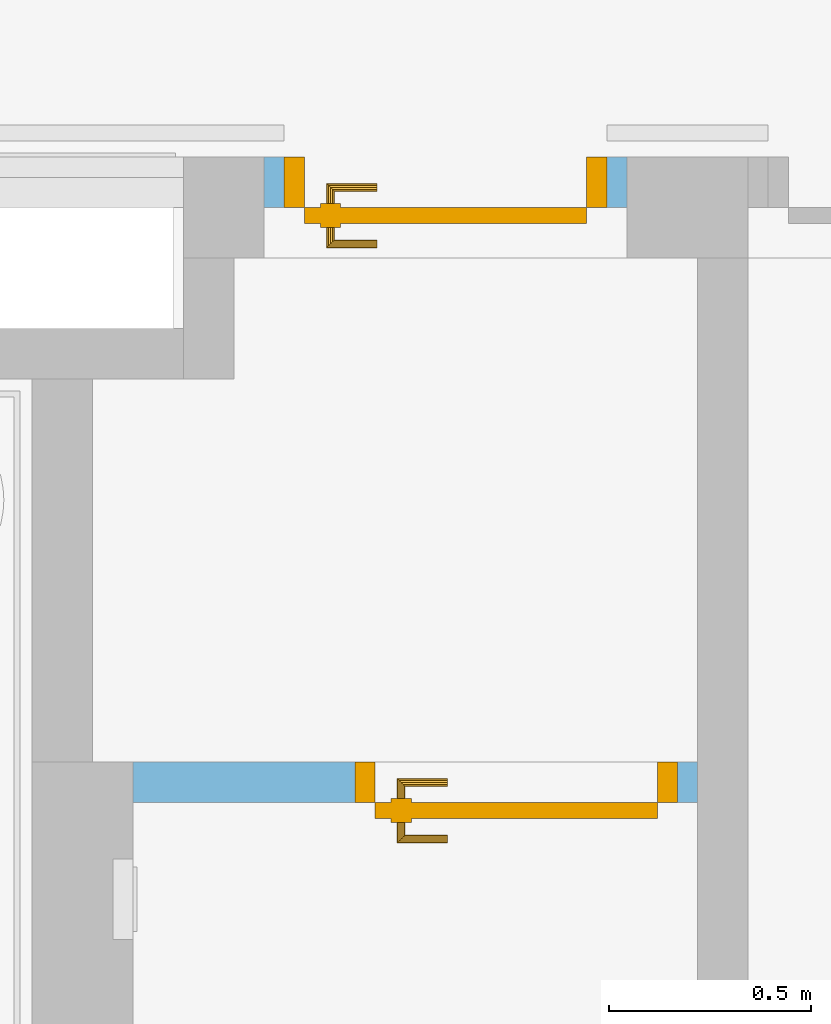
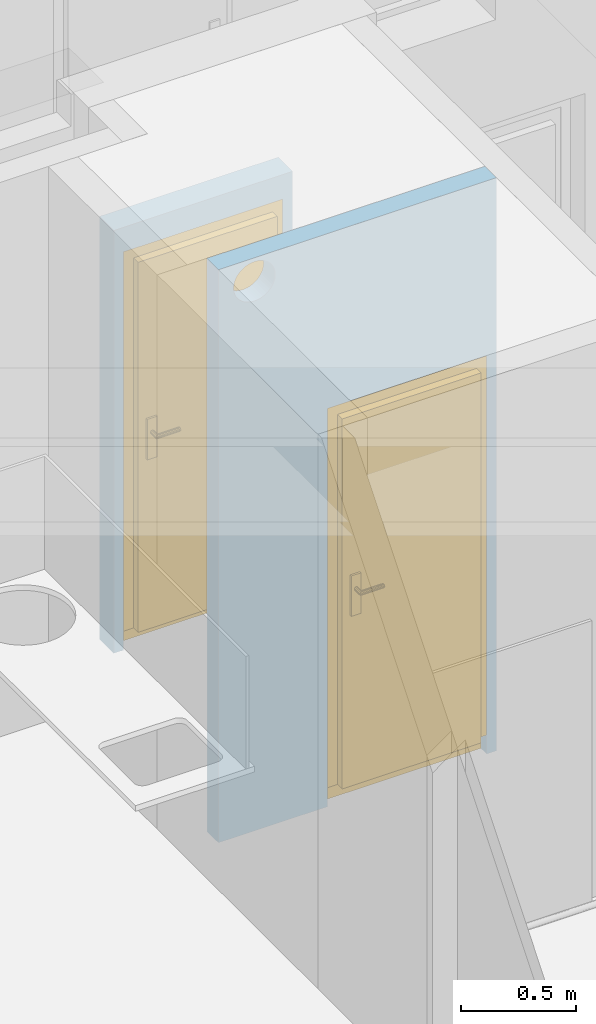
# One storey, part 56 of 84: 2 doors, 4 openings, plus 2 elements that do not belong to this part.
"""IFC4 building model written with IfcOpenShell, lengths in metres."""

from ifc_helpers import new_model, entity, si_unit, converted_unit, derived_unit, frame, frame_2d, origin, origin_with_axes, place, context, subcontext, project, spatial, polyline, rectangle, outline, extrude, closed_shell, open_shell, surface_model, source, transform, mapped, material, layer, layer_set, layer_usage, type_object, element, fill, save


model = new_model("IFC4")

# Units and contexts
model_context = context("Model", 3, precision=1e-05, world=origin())
body_context = subcontext(model_context, "Body", "Model", "MODEL_VIEW")
ifc_project = project(units=[si_unit("LENGTHUNIT", "METRE"), si_unit("AREAUNIT", "SQUARE_METRE"), si_unit("VOLUMEUNIT", "CUBIC_METRE"), si_unit("MASSUNIT", "GRAM", prefix="KILO"), converted_unit("PLANEANGLEUNIT", "DEGREE", entity("IfcPlaneAngleMeasure", 0.0174532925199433), si_unit("PLANEANGLEUNIT", "RADIAN"), dimensions=[0, 0, 0, 0, 0, 0, 0]), derived_unit("THERMALTRANSMITTANCEUNIT", [(si_unit("POWERUNIT", "WATT"), 1), (si_unit("THERMODYNAMICTEMPERATUREUNIT", "KELVIN"), -1), (si_unit("LENGTHUNIT", "METRE"), -2)]), derived_unit("VOLUMETRICFLOWRATEUNIT", [(si_unit("LENGTHUNIT", "METRE"), 3), (converted_unit("TIMEUNIT", "hour", entity("IfcTimeMeasure", 3600.0), si_unit("TIMEUNIT", "SECOND"), dimensions=[0, 0, 1, 0, 0, 0, 0]), -1), (si_unit("LENGTHUNIT", "METRE"), -1)])], contexts=[model_context])

# Site, building, storey
site_placement = place(None, origin())
site = spatial("IfcSite", under=ifc_project, at=site_placement, Name="3. ASŘ", CompositionType="ELEMENT")
building_placement = place(site_placement, origin())
building = spatial("IfcBuilding", under=site, at=building_placement, Name="Pavilon C", CompositionType="ELEMENT")
storey_placement = place(building_placement, frame((0.0, 0.0, -3.3)))
storey = spatial("IfcBuildingStorey", under=building, at=storey_placement, Name="Půdorys 1.PP", CompositionType="ELEMENT", Elevation=-3.3)

# Wall, openings, door
ifc_material_1 = material(Name="YTONG 125")
ifc_layer_1 = layer(ifc_material_1, 0.125)
ifc_layer_set_1 = layer_set([ifc_layer_1])
ifc_layer_usage_1 = layer_usage(ifc_layer_set_1, "AXIS2", "POSITIVE", 0.0)
wall_1_placement = place(storey_placement, frame((22.475, 7.525, -0.1), z_axis=(0.0, 0.0, 1.0), x_axis=(-1.0, 0.0, 0.0)))
wall_1 = element("IfcWall", 1, at=wall_1_placement, inside=storey, material=ifc_layer_usage_1, Name="YTONG 125", context=body_context, shape_type="SweptSolid", body=[
    extrude(rectangle(XDim=0.9, YDim=0.125, at=frame_2d((0.45, 0.0625), x_axis=(1.0, 0.0))), origin_with_axes(), (0.0, 0.0, 1.0), 2.25),
])
opening_1_placement = place(wall_1_placement, frame((0.85, 0.125, 0.0), z_axis=(0.0, -1.0, 0.0), x_axis=(0.0, 0.0, 1.0)))
opening_1 = element("IfcOpeningElement", 2, at=opening_1_placement, cuts=wall_1, Name="Dveřní otvor", ObjectType="Opening", context=body_context, shape_type="SweptSolid", body=[
    extrude(outline(polyline([(0.0, 0.8), (2.12, 0.8), (2.12, 0.0), (0.0, 0.0), (0.0, 0.8)])), origin_with_axes(), (0.0, 0.0, 1.0), 0.125),
])
opening_2_placement = place(wall_1_placement, frame((0.586062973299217, 0.0, 2.8), z_axis=(0.0, 1.0, 0.0), x_axis=(0.0, 0.0, 1.0)))
element("IfcOpeningElement", 3, at=opening_2_placement, cuts=wall_1, Name="VZT", ObjectType="Opening", context=body_context, shape_type="SweptSolid", body=[
    extrude(outline(polyline([(0.124999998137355, 0.25), (0.138066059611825, 0.249315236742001), (0.150988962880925, 0.247268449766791), (0.163627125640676, 0.243882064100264), (0.175842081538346, 0.239193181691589), (0.187500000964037, 0.233253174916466), (0.198473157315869, 0.226127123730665), (0.208641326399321, 0.21789310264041), (0.217893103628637, 0.208641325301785), (0.226127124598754, 0.198473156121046), (0.233253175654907, 0.18749999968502), (0.239193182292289, 0.175842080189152), (0.243882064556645, 0.163627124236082), (0.24726845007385, 0.15098896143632), (0.249315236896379, 0.138066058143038), (0.25, 0.125000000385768), (0.249315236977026, 0.11193394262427), (0.247268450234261, 0.0990110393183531), (0.243882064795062, 0.0863728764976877), (0.2391931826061, 0.0741579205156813), (0.233253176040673, 0.0625000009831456), (0.22612712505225, 0.0515268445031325), (0.217893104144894, 0.0413586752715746), (0.208641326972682, 0.0321068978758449), (0.198473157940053, 0.0238728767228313), (0.187500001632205, 0.0167468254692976), (0.175842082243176, 0.0108068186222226), (0.163627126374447, 0.00611793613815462), (0.150988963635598, 0.00273155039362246), (0.138066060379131, 0.000684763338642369), (0.124999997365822, 0.0), (0.111933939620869, 0.000684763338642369), (0.0990110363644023, 0.00273155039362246), (0.0863728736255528, 0.00611793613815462), (0.074157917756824, 0.0108068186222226), (0.0624999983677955, 0.0167468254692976), (0.0515268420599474, 0.0238728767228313), (0.0413586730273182, 0.0321068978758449), (0.0321068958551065, 0.0413586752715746), (0.0238728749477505, 0.0515268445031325), (0.0167468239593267, 0.0625000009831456), (0.0108068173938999, 0.0741579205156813), (0.00611793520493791, 0.0863728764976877), (0.00273154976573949, 0.0990110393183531), (0.000684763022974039, 0.11193394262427), (0.0, 0.125000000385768), (0.000684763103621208, 0.138066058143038), (0.00273154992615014, 0.15098896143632), (0.00611793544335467, 0.163627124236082), (0.0108068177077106, 0.175842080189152), (0.0167468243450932, 0.18749999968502), (0.0238728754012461, 0.198473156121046), (0.0321068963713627, 0.208641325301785), (0.0413586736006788, 0.21789310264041), (0.0515268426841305, 0.226127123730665), (0.0624999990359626, 0.233253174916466), (0.0741579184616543, 0.239193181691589), (0.086372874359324, 0.243882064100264), (0.0990110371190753, 0.247268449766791), (0.111933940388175, 0.249315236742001), (0.124999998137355, 0.25)])), origin_with_axes(), (0.0, 0.0, 1.0), 0.125),
])
door_type_1 = type_object("IfcDoorType", Name="I.D018", OperationType="NOTDEFINED", ParameterTakesPrecedence=False, PredefinedType="DOOR")
shared_shape_1 = source(origin_with_axes(), body_context, "Body", "SurfaceModel", [
    surface_model("IfcShellBasedSurfaceModel", [(0.0, 0.0625, 0.0), (0.8, 0.0625, 0.0), (0.8, 0.0625, 0.1), (0.0, 0.0625, 0.1)], [open_shell([[[0, 1, 2, 3]]], orient=[[False]])]),
    surface_model("IfcShellBasedSurfaceModel", [(0.0, 0.125, 2.12), (0.0, 0.125, 0.101), (0.05, 0.125, 0.101), (0.05, 0.125, 2.12), (0.0, 0.0, 0.101), (0.0, 2.41584530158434e-16, 2.12), (0.05, 2.41584530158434e-16, 2.12), (0.05, 0.0, 0.101)], [closed_shell([[[0, 1, 2, 3]], [[4, 5, 6, 7]], [[1, 0, 5, 4]], [[2, 1, 4, 7]], [[3, 2, 7, 6]], [[0, 3, 6, 5]]], orient=[[False], [False], [False], [False], [False], [False]])]),
    surface_model("IfcShellBasedSurfaceModel", [(0.75, 0.125, 2.12), (0.75, 0.125, 0.101), (0.8, 0.125, 0.101), (0.8, 0.125, 2.12), (0.75, 0.0, 0.101), (0.75, 2.41584530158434e-16, 2.12), (0.8, 2.41584530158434e-16, 2.12), (0.8, 0.0, 0.101)], [closed_shell([[[0, 1, 2, 3]], [[4, 5, 6, 7]], [[1, 0, 5, 4]], [[2, 1, 4, 7]], [[3, 2, 7, 6]], [[0, 3, 6, 5]]], orient=[[False], [False], [False], [False], [False], [False]])]),
    surface_model("IfcShellBasedSurfaceModel", [(0.05, 0.125, 2.12), (0.05, 0.125, 2.07), (0.75, 0.125, 2.07), (0.75, 0.125, 2.12), (0.05, 2.41584530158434e-16, 2.07), (0.05, 2.41584530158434e-16, 2.12), (0.75, 2.41584530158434e-16, 2.12), (0.75, 2.41584530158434e-16, 2.07)], [closed_shell([[[0, 1, 2, 3]], [[4, 5, 6, 7]], [[1, 0, 5, 4]], [[2, 1, 4, 7]], [[3, 2, 7, 6]], [[0, 3, 6, 5]]], orient=[[False], [False], [False], [False], [False], [False]])]),
    surface_model("IfcShellBasedSurfaceModel", [(0.05, 0.165, 2.07), (0.05, 0.165, 0.101), (0.75, 0.165, 0.101), (0.75, 0.165, 2.07), (0.05, 0.125, 0.101), (0.05, 0.125, 2.07), (0.75, 0.125, 2.07), (0.75, 0.125, 0.101)], [closed_shell([[[0, 1, 2, 3]], [[4, 5, 6, 7]], [[1, 0, 5, 4]], [[2, 1, 4, 7]], [[3, 2, 7, 6]], [[0, 3, 6, 5]]], orient=[[False], [False], [False], [False], [False], [False]])]),
    surface_model("IfcShellBasedSurfaceModel", [(0.09, 0.125, 1.226), (0.09, 0.125, 1.011), (0.14, 0.125, 1.011), (0.14, 0.125, 1.226), (0.09, 0.115, 1.011), (0.09, 0.115, 1.226), (0.14, 0.115, 1.226), (0.14, 0.115, 1.011)], [closed_shell([[[0, 1, 2, 3]], [[4, 5, 6, 7]], [[1, 0, 5, 4]], [[2, 1, 4, 7]], [[3, 2, 7, 6]], [[0, 3, 6, 5]]], orient=[[False], [False], [False], [False], [False], [False]])]),
    surface_model("IfcShellBasedSurfaceModel", [(0.115, 0.115, 1.161), (0.11, 0.115, 1.15966025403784), (0.106339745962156, 0.115, 1.156), (0.105, 0.115, 1.151), (0.106339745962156, 0.115, 1.146), (0.11, 0.115, 1.14233974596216), (0.115, 0.115, 1.141), (0.12, 0.115, 1.14233974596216), (0.123660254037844, 0.115, 1.146), (0.125, 0.115, 1.151), (0.123660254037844, 0.115, 1.156), (0.12, 0.115, 1.15966025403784), (0.115, 0.0750000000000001, 1.161), (0.11, 0.0700000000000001, 1.15966025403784), (0.106339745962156, 0.0663397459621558, 1.156), (0.105, 0.0650000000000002, 1.151), (0.106339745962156, 0.0663397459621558, 1.146), (0.11, 0.0700000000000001, 1.14233974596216), (0.115, 0.0750000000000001, 1.141), (0.12, 0.0800000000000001, 1.14233974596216), (0.123660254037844, 0.0836602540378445, 1.146), (0.125, 0.0850000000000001, 1.151), (0.123660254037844, 0.0836602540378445, 1.156), (0.12, 0.0800000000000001, 1.15966025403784), (0.23, 0.0750000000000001, 1.161), (0.23, 0.0700000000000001, 1.15966025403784), (0.23, 0.0663397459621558, 1.156), (0.23, 0.0650000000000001, 1.151), (0.23, 0.0663397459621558, 1.146), (0.23, 0.0700000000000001, 1.14233974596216), (0.23, 0.0750000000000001, 1.141), (0.23, 0.0800000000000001, 1.14233974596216), (0.23, 0.0836602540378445, 1.146), (0.23, 0.0850000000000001, 1.151), (0.23, 0.0836602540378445, 1.156), (0.23, 0.0800000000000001, 1.15966025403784)], [open_shell([[[0, 1, 2, 3, 4, 5, 6, 7, 8, 9, 10, 11]], [[0, 12, 13, 1]], [[1, 13, 14, 2]], [[2, 14, 15, 3]], [[3, 15, 16, 4]], [[4, 16, 17, 5]], [[5, 17, 18, 6]], [[6, 18, 19, 7]], [[7, 19, 20, 8]], [[8, 20, 21, 9]], [[9, 21, 22, 10]], [[10, 22, 23, 11]], [[11, 23, 12, 0]], [[12, 24, 25, 13]], [[13, 25, 26, 14]], [[14, 26, 27, 15]], [[15, 27, 28, 16]], [[16, 28, 29, 17]], [[17, 29, 30, 18]], [[18, 30, 31, 19]], [[19, 31, 32, 20]], [[20, 32, 33, 21]], [[21, 33, 34, 22]], [[22, 34, 35, 23]], [[23, 35, 24, 12]]], orient=[[False], [False], [False], [False], [False], [False], [False], [False], [False], [False], [False], [False], [False], [False], [False], [False], [False], [False], [False], [False], [False], [False], [False], [False], [False]])]),
    surface_model("IfcShellBasedSurfaceModel", [(0.09, 0.165, 1.226), (0.14, 0.165, 1.226), (0.14, 0.165, 1.011), (0.09, 0.165, 1.011), (0.09, 0.175, 1.011), (0.14, 0.175, 1.011), (0.14, 0.175, 1.226), (0.09, 0.175, 1.226)], [closed_shell([[[0, 1, 2, 3]], [[4, 5, 6, 7]], [[3, 4, 7, 0]], [[2, 5, 4, 3]], [[1, 6, 5, 2]], [[0, 7, 6, 1]]], orient=[[False], [False], [False], [False], [False], [False]])]),
    surface_model("IfcShellBasedSurfaceModel", [(0.115, 0.175, 1.161), (0.12, 0.175, 1.15966025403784), (0.123660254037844, 0.175, 1.156), (0.125, 0.175, 1.151), (0.123660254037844, 0.175, 1.146), (0.12, 0.175, 1.14233974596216), (0.115, 0.175, 1.141), (0.11, 0.175, 1.14233974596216), (0.106339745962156, 0.175, 1.146), (0.105, 0.175, 1.151), (0.106339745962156, 0.175, 1.156), (0.11, 0.175, 1.15966025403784), (0.11, 0.22, 1.15966025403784), (0.115, 0.215, 1.161), (0.106339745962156, 0.223660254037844, 1.156), (0.105, 0.225, 1.151), (0.106339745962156, 0.223660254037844, 1.146), (0.11, 0.22, 1.14233974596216), (0.115, 0.215, 1.141), (0.12, 0.21, 1.14233974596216), (0.123660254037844, 0.206339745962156, 1.146), (0.125, 0.205, 1.151), (0.123660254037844, 0.206339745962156, 1.156), (0.12, 0.21, 1.15966025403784), (0.23, 0.22, 1.15966025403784), (0.23, 0.215, 1.161), (0.23, 0.223660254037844, 1.156), (0.23, 0.225, 1.151), (0.23, 0.223660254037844, 1.146), (0.23, 0.22, 1.14233974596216), (0.23, 0.215, 1.141), (0.23, 0.21, 1.14233974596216), (0.23, 0.206339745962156, 1.146), (0.23, 0.205, 1.151), (0.23, 0.206339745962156, 1.156), (0.23, 0.21, 1.15966025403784)], [open_shell([[[0, 1, 2, 3, 4, 5, 6, 7, 8, 9, 10, 11]], [[0, 11, 12, 13]], [[11, 10, 14, 12]], [[10, 9, 15, 14]], [[9, 8, 16, 15]], [[8, 7, 17, 16]], [[7, 6, 18, 17]], [[6, 5, 19, 18]], [[5, 4, 20, 19]], [[4, 3, 21, 20]], [[3, 2, 22, 21]], [[2, 1, 23, 22]], [[1, 0, 13, 23]], [[13, 12, 24, 25]], [[12, 14, 26, 24]], [[14, 15, 27, 26]], [[15, 16, 28, 27]], [[16, 17, 29, 28]], [[17, 18, 30, 29]], [[18, 19, 31, 30]], [[19, 20, 32, 31]], [[20, 21, 33, 32]], [[21, 22, 34, 33]], [[22, 23, 35, 34]], [[23, 13, 25, 35]]], orient=[[False], [False], [False], [False], [False], [False], [False], [False], [False], [False], [False], [False], [False], [False], [False], [False], [False], [False], [False], [False], [False], [False], [False], [False], [False]])]),
])
door_1_placement = place(opening_1_placement, frame((0.0, 0.0, 0.125), z_axis=(1.0, 0.0, 0.0), x_axis=(0.0, 1.0, -1.22464679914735e-16)))
door_1 = element("IfcDoor", 4, at=door_1_placement, inside=storey, type_object=door_type_1, Name="I.D018", OverallHeight=2.12, OverallWidth=0.8, context=body_context, shape_type="MappedRepresentation", body=[
    mapped(shared_shape_1, transform((0.0, 0.0, 0.0), x_axis=(1.0, 0.0, 0.0), y_axis=(0.0, -1.0, 0.0), z_axis=(0.0, 0.0, 1.0), scale=1.0)),
])
fill(opening_1, door_1)

ifc_material_2 = material(Name="SDK - 1 KCE + DVOJITÉ OPLÁŠTĚNÍ")
ifc_layer_2 = layer(ifc_material_2, 0.1)
ifc_layer_set_2 = layer_set([ifc_layer_2])
ifc_layer_usage_2 = layer_usage(ifc_layer_set_2, "AXIS2", "POSITIVE", 0.0)
wall_2_placement = place(storey_placement, frame((21.25, 5.925, -0.1)))
wall_2 = element("IfcWall", 5, at=wall_2_placement, inside=storey, material=ifc_layer_usage_2, Name="SDK - 1 KCE + DVOJITÉ OPLÁŠTĚNÍ", context=body_context, shape_type="SweptSolid", body=[
    extrude(rectangle(XDim=1.4, YDim=0.1, at=frame_2d((0.7, 0.05), x_axis=(1.0, 0.0))), origin_with_axes(), (0.0, 0.0, 1.0), 3.05),
])
opening_3_placement = place(wall_2_placement, frame((0.55, 0.0, 0.0), z_axis=(0.0, 1.0, 0.0), x_axis=(0.0, 0.0, 1.0)))
opening_3 = element("IfcOpeningElement", 6, at=opening_3_placement, cuts=wall_2, Name="Dveřní otvor", ObjectType="Opening", context=body_context, shape_type="SweptSolid", body=[
    extrude(outline(polyline([(0.0, 0.8), (2.12, 0.8), (2.12, 0.0), (0.0, 0.0), (0.0, 0.8)])), origin_with_axes(), (0.0, 0.0, 1.0), 0.1),
])
opening_4_placement = place(wall_2_placement, frame((0.0763191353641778, 0.0, 2.82), z_axis=(0.0, 1.0, 0.0), x_axis=(0.0, 0.0, 1.0)))
element("IfcOpeningElement", 7, at=opening_4_placement, cuts=wall_2, Name="VZT", ObjectType="Opening", context=body_context, shape_type="SweptSolid", body=[
    extrude(outline(polyline([(0.105, 0.0), (0.0940245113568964, 0.000575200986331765), (0.0831692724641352, 0.0022945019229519), (0.0725532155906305, 0.00513906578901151), (0.062292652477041, 0.0090777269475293), (0.0525, 0.0140673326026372), (0.0432825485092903, 0.0200532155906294), (0.0347412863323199, 0.0269697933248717), (0.0269697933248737, 0.0347412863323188), (0.0200532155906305, 0.0432825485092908), (0.014067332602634, 0.0525), (0.00907772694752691, 0.062292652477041), (0.0051390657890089, 0.072553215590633), (0.00229450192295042, 0.0831692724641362), (0.000575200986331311, 0.0940245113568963), (0.0, 0.105), (0.000575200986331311, 0.115975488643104), (0.00229450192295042, 0.126830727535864), (0.0051390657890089, 0.137446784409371), (0.00907772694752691, 0.147707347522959), (0.014067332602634, 0.1575), (0.0200532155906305, 0.166717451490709), (0.0269697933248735, 0.175258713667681), (0.0347412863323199, 0.183030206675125), (0.0432825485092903, 0.189946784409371), (0.0525, 0.195932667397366), (0.062292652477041, 0.200922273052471), (0.0725532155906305, 0.204860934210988), (0.0831692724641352, 0.207705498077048), (0.0940245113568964, 0.209424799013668), (0.105, 0.21), (0.115975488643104, 0.209424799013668), (0.126830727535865, 0.207705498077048), (0.137446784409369, 0.204860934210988), (0.147707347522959, 0.200922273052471), (0.1575, 0.195932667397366), (0.16671745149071, 0.189946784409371), (0.17525871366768, 0.183030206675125), (0.183030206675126, 0.175258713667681), (0.189946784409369, 0.166717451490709), (0.195932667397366, 0.1575), (0.200922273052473, 0.147707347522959), (0.204860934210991, 0.137446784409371), (0.20770549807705, 0.126830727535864), (0.209424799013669, 0.115975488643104), (0.21, 0.105), (0.209424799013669, 0.0940245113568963), (0.20770549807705, 0.0831692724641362), (0.204860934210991, 0.072553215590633), (0.200922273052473, 0.062292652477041), (0.195932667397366, 0.0525), (0.18994678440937, 0.0432825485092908), (0.183030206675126, 0.0347412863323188), (0.17525871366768, 0.0269697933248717), (0.16671745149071, 0.0200532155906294), (0.1575, 0.0140673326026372), (0.147707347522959, 0.0090777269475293), (0.13744678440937, 0.00513906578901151), (0.126830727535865, 0.0022945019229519), (0.115975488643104, 0.000575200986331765), (0.105, 0.0)])), origin_with_axes(), (0.0, 0.0, 1.0), 0.1),
])
door_type_2 = type_object("IfcDoorType", Name="I.D019", OperationType="NOTDEFINED", ParameterTakesPrecedence=False, PredefinedType="DOOR")
shared_shape_2 = source(origin_with_axes(), body_context, "Body", "SurfaceModel", [
    surface_model("IfcShellBasedSurfaceModel", [(0.0, 0.05, 0.0), (0.8, 0.05, 0.0), (0.8, 0.05, 0.1), (0.0, 0.05, 0.1)], [open_shell([[[0, 1, 2, 3]]], orient=[[False]])]),
    surface_model("IfcShellBasedSurfaceModel", [(0.0, 0.1, 2.12), (0.0, 0.1, 0.101), (0.05, 0.1, 0.101), (0.05, 0.1, 2.12), (0.0, 0.0, 0.101), (0.0, 2.41584530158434e-16, 2.12), (0.05, 2.41584530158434e-16, 2.12), (0.05, 0.0, 0.101)], [closed_shell([[[0, 1, 2, 3]], [[4, 5, 6, 7]], [[1, 0, 5, 4]], [[2, 1, 4, 7]], [[3, 2, 7, 6]], [[0, 3, 6, 5]]], orient=[[False], [False], [False], [False], [False], [False]])]),
    surface_model("IfcShellBasedSurfaceModel", [(0.75, 0.1, 2.12), (0.75, 0.1, 0.101), (0.8, 0.1, 0.101), (0.8, 0.1, 2.12), (0.75, 0.0, 0.101), (0.75, 2.41584530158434e-16, 2.12), (0.8, 2.41584530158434e-16, 2.12), (0.8, 0.0, 0.101)], [closed_shell([[[0, 1, 2, 3]], [[4, 5, 6, 7]], [[1, 0, 5, 4]], [[2, 1, 4, 7]], [[3, 2, 7, 6]], [[0, 3, 6, 5]]], orient=[[False], [False], [False], [False], [False], [False]])]),
    surface_model("IfcShellBasedSurfaceModel", [(0.05, 0.1, 2.12), (0.05, 0.1, 2.07), (0.75, 0.1, 2.07), (0.75, 0.1, 2.12), (0.05, 2.41584530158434e-16, 2.07), (0.05, 2.41584530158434e-16, 2.12), (0.75, 2.41584530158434e-16, 2.12), (0.75, 2.41584530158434e-16, 2.07)], [closed_shell([[[0, 1, 2, 3]], [[4, 5, 6, 7]], [[1, 0, 5, 4]], [[2, 1, 4, 7]], [[3, 2, 7, 6]], [[0, 3, 6, 5]]], orient=[[False], [False], [False], [False], [False], [False]])]),
    surface_model("IfcShellBasedSurfaceModel", [(0.05, 0.14, 2.07), (0.05, 0.14, 0.101), (0.75, 0.14, 0.101), (0.75, 0.14, 2.07), (0.05, 0.1, 0.101), (0.05, 0.1, 2.07), (0.75, 0.1, 2.07), (0.75, 0.1, 0.101)], [closed_shell([[[0, 1, 2, 3]], [[4, 5, 6, 7]], [[1, 0, 5, 4]], [[2, 1, 4, 7]], [[3, 2, 7, 6]], [[0, 3, 6, 5]]], orient=[[False], [False], [False], [False], [False], [False]])]),
    surface_model("IfcShellBasedSurfaceModel", [(0.09, 0.1, 1.226), (0.09, 0.1, 1.011), (0.14, 0.1, 1.011), (0.14, 0.1, 1.226), (0.09, 0.0900000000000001, 1.011), (0.09, 0.0900000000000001, 1.226), (0.14, 0.0900000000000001, 1.226), (0.14, 0.0900000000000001, 1.011)], [closed_shell([[[0, 1, 2, 3]], [[4, 5, 6, 7]], [[1, 0, 5, 4]], [[2, 1, 4, 7]], [[3, 2, 7, 6]], [[0, 3, 6, 5]]], orient=[[False], [False], [False], [False], [False], [False]])]),
    surface_model("IfcShellBasedSurfaceModel", [(0.115, 0.0900000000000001, 1.161), (0.11, 0.0900000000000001, 1.15966025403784), (0.106339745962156, 0.0900000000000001, 1.156), (0.105, 0.0900000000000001, 1.151), (0.106339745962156, 0.0900000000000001, 1.146), (0.11, 0.0900000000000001, 1.14233974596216), (0.115, 0.0900000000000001, 1.141), (0.12, 0.0900000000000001, 1.14233974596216), (0.123660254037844, 0.0900000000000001, 1.146), (0.125, 0.0900000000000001, 1.151), (0.123660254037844, 0.0900000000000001, 1.156), (0.12, 0.0900000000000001, 1.15966025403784), (0.115, 0.0500000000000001, 1.161), (0.11, 0.0450000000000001, 1.15966025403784), (0.106339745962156, 0.0413397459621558, 1.156), (0.105, 0.0400000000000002, 1.151), (0.106339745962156, 0.0413397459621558, 1.146), (0.11, 0.0450000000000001, 1.14233974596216), (0.115, 0.0500000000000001, 1.141), (0.12, 0.0550000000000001, 1.14233974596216), (0.123660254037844, 0.0586602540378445, 1.146), (0.125, 0.0600000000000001, 1.151), (0.123660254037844, 0.0586602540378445, 1.156), (0.12, 0.0550000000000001, 1.15966025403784), (0.23, 0.0500000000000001, 1.161), (0.23, 0.0450000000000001, 1.15966025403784), (0.23, 0.0413397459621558, 1.156), (0.23, 0.0400000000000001, 1.151), (0.23, 0.0413397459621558, 1.146), (0.23, 0.0450000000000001, 1.14233974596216), (0.23, 0.0500000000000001, 1.141), (0.23, 0.0550000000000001, 1.14233974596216), (0.23, 0.0586602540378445, 1.146), (0.23, 0.0600000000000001, 1.151), (0.23, 0.0586602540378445, 1.156), (0.23, 0.0550000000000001, 1.15966025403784)], [open_shell([[[0, 1, 2, 3, 4, 5, 6, 7, 8, 9, 10, 11]], [[0, 12, 13, 1]], [[1, 13, 14, 2]], [[2, 14, 15, 3]], [[3, 15, 16, 4]], [[4, 16, 17, 5]], [[5, 17, 18, 6]], [[6, 18, 19, 7]], [[7, 19, 20, 8]], [[8, 20, 21, 9]], [[9, 21, 22, 10]], [[10, 22, 23, 11]], [[11, 23, 12, 0]], [[12, 24, 25, 13]], [[13, 25, 26, 14]], [[14, 26, 27, 15]], [[15, 27, 28, 16]], [[16, 28, 29, 17]], [[17, 29, 30, 18]], [[18, 30, 31, 19]], [[19, 31, 32, 20]], [[20, 32, 33, 21]], [[21, 33, 34, 22]], [[22, 34, 35, 23]], [[23, 35, 24, 12]]], orient=[[False], [False], [False], [False], [False], [False], [False], [False], [False], [False], [False], [False], [False], [False], [False], [False], [False], [False], [False], [False], [False], [False], [False], [False], [False]])]),
    surface_model("IfcShellBasedSurfaceModel", [(0.09, 0.14, 1.226), (0.14, 0.14, 1.226), (0.14, 0.14, 1.011), (0.09, 0.14, 1.011), (0.09, 0.15, 1.011), (0.14, 0.15, 1.011), (0.14, 0.15, 1.226), (0.09, 0.15, 1.226)], [closed_shell([[[0, 1, 2, 3]], [[4, 5, 6, 7]], [[3, 4, 7, 0]], [[2, 5, 4, 3]], [[1, 6, 5, 2]], [[0, 7, 6, 1]]], orient=[[False], [False], [False], [False], [False], [False]])]),
    surface_model("IfcShellBasedSurfaceModel", [(0.115, 0.15, 1.161), (0.12, 0.15, 1.15966025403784), (0.123660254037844, 0.15, 1.156), (0.125, 0.15, 1.151), (0.123660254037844, 0.15, 1.146), (0.12, 0.15, 1.14233974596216), (0.115, 0.15, 1.141), (0.11, 0.15, 1.14233974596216), (0.106339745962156, 0.15, 1.146), (0.105, 0.15, 1.151), (0.106339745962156, 0.15, 1.156), (0.11, 0.15, 1.15966025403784), (0.11, 0.195, 1.15966025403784), (0.115, 0.19, 1.161), (0.106339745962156, 0.198660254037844, 1.156), (0.105, 0.2, 1.151), (0.106339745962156, 0.198660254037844, 1.146), (0.11, 0.195, 1.14233974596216), (0.115, 0.19, 1.141), (0.12, 0.185, 1.14233974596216), (0.123660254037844, 0.181339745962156, 1.146), (0.125, 0.18, 1.151), (0.123660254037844, 0.181339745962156, 1.156), (0.12, 0.185, 1.15966025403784), (0.23, 0.195, 1.15966025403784), (0.23, 0.19, 1.161), (0.23, 0.198660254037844, 1.156), (0.23, 0.2, 1.151), (0.23, 0.198660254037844, 1.146), (0.23, 0.195, 1.14233974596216), (0.23, 0.19, 1.141), (0.23, 0.185, 1.14233974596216), (0.23, 0.181339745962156, 1.146), (0.23, 0.18, 1.151), (0.23, 0.181339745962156, 1.156), (0.23, 0.185, 1.15966025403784)], [open_shell([[[0, 1, 2, 3, 4, 5, 6, 7, 8, 9, 10, 11]], [[0, 11, 12, 13]], [[11, 10, 14, 12]], [[10, 9, 15, 14]], [[9, 8, 16, 15]], [[8, 7, 17, 16]], [[7, 6, 18, 17]], [[6, 5, 19, 18]], [[5, 4, 20, 19]], [[4, 3, 21, 20]], [[3, 2, 22, 21]], [[2, 1, 23, 22]], [[1, 0, 13, 23]], [[13, 12, 24, 25]], [[12, 14, 26, 24]], [[14, 15, 27, 26]], [[15, 16, 28, 27]], [[16, 17, 29, 28]], [[17, 18, 30, 29]], [[18, 19, 31, 30]], [[19, 20, 32, 31]], [[20, 21, 33, 32]], [[21, 22, 34, 33]], [[22, 23, 35, 34]], [[23, 13, 25, 35]]], orient=[[False], [False], [False], [False], [False], [False], [False], [False], [False], [False], [False], [False], [False], [False], [False], [False], [False], [False], [False], [False], [False], [False], [False], [False], [False]])]),
])
door_2_placement = place(opening_3_placement, frame((0.0, 0.0, 0.1), z_axis=(1.0, 0.0, 0.0), x_axis=(0.0, 1.0, -1.22464679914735e-16)))
door_2 = element("IfcDoor", 8, at=door_2_placement, inside=storey, type_object=door_type_2, Name="I.D019", OverallHeight=2.12, OverallWidth=0.8, context=body_context, shape_type="MappedRepresentation", body=[
    mapped(shared_shape_2, transform((0.0, 0.0, 0.0), x_axis=(1.0, 0.0, 0.0), y_axis=(0.0, -1.0, 0.0), z_axis=(0.0, 0.0, 1.0), scale=1.0)),
])
fill(opening_3, door_2)

save(model, "model.ifc")
